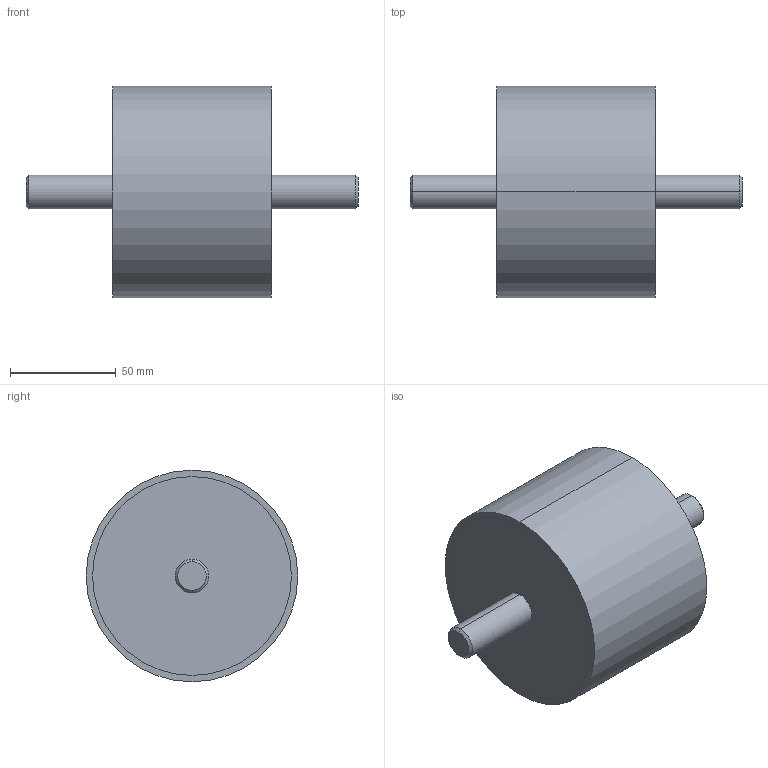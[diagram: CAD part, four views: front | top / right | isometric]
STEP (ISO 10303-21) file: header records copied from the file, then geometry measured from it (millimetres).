
FILE_DESCRIPTION (( 'STEP AP214' ), '1' );
FILE_NAME ('351-100-75-M16-SS-40.step', '2025-07-23T10:03:07', ( '' ), ( '' ), 'SwSTEP 2.0', 'SolidWorks 2022', '' );
FILE_SCHEMA (( 'AUTOMOTIVE_DESIGN' ));
Length unit declared in the file: millimetre
Products named in the file (1): 351-100-75-M16-SS-40
Bounding box: 157 x 100 x 100 mm (x, y, z)
Volume: 605326.5 mm3; surface area: 43320.9 mm2
Topology: 1 solids, 1 shells, 20 faces, 38 edges, 24 vertices
Faces by surface type: cylinder 10, plane 6, cone 4
Entity records: 636 total; most frequent: DIRECTION 104, CARTESIAN_POINT 83, ORIENTED_EDGE 76, AXIS2_PLACEMENT_3D 45, EDGE_CURVE 38, CIRCLE 24, EDGE_LOOP 24, VERTEX_POINT 24
